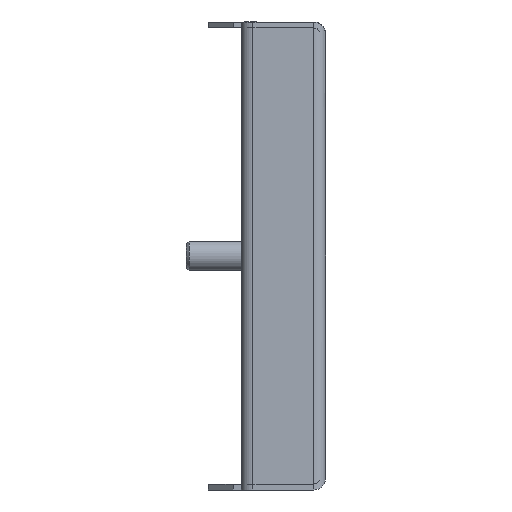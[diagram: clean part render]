
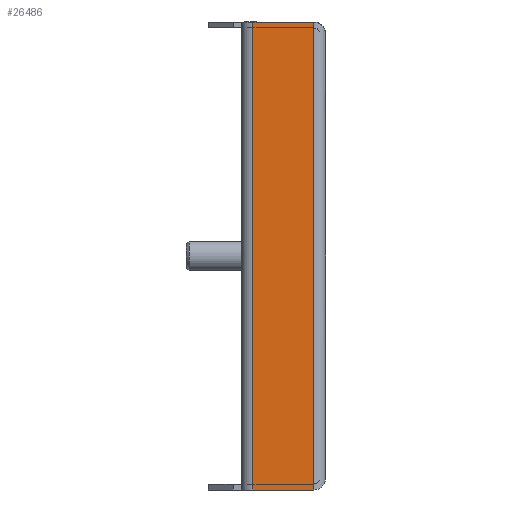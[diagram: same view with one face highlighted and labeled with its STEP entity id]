
A CAD part, left-side view. The second image highlights one B-rep face of the part: STEP entity #26486.
In plain terms, the highlighted planar face has unit normal (-1, 0, 0).
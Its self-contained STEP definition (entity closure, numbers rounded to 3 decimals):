
#1991 = EDGE_CURVE ( 'NONE', #30424, #30423, #23474, .T. ) ;
#2004 = EDGE_CURVE ( 'NONE', #30434, #30433, #23516, .T. ) ;
#2007 = EDGE_CURVE ( 'NONE', #30423, #30433, #23525, .T. ) ;
#2008 = EDGE_CURVE ( 'NONE', #30424, #30434, #23528, .T. ) ;
#2801 = VECTOR ( 'NONE', #23530, 1000. ) ;
#3167 = VECTOR ( 'NONE', #23518, 1000. ) ;
#3199 = VECTOR ( 'NONE', #23476, 1000. ) ;
#3204 = VECTOR ( 'NONE', #23527, 1000. ) ;
#3325 = ORIENTED_EDGE ( 'NONE', *, *, #2004, .T. ) ;
#3326 = ORIENTED_EDGE ( 'NONE', *, *, #1991, .F. ) ;
#3328 = ORIENTED_EDGE ( 'NONE', *, *, #2007, .F. ) ;
#3329 = ORIENTED_EDGE ( 'NONE', *, *, #2008, .T. ) ;
#8989 = CARTESIAN_POINT ( 'NONE',  ( -229., 2.4, -47. ) ) ;
#8990 = CARTESIAN_POINT ( 'NONE',  ( -229., 2.4, 47. ) ) ;
#8999 = CARTESIAN_POINT ( 'NONE',  ( -229., 14.6, -47. ) ) ;
#9000 = CARTESIAN_POINT ( 'NONE',  ( -229., 14.6, 47. ) ) ;
#14158 = FACE_OUTER_BOUND ( 'NONE', #28872, .T. ) ;
#14161 = AXIS2_PLACEMENT_3D ( 'NONE', #15057, #15058, #15059 ) ;
#15056 = PLANE ( 'NONE',  #14161 ) ;
#15057 = CARTESIAN_POINT ( 'NONE',  ( -229., 0., 47. ) ) ;
#15058 = DIRECTION ( 'NONE',  ( -1., 0., 0. ) ) ;
#15059 = DIRECTION ( 'NONE',  ( 0., 0., 1. ) ) ;
#23474 = LINE ( 'NONE', #23475, #3199 ) ;
#23475 = CARTESIAN_POINT ( 'NONE',  ( -229., 2.4, 47. ) ) ;
#23476 = DIRECTION ( 'NONE',  ( 0., 0., -1. ) ) ;
#23516 = LINE ( 'NONE', #23517, #3167 ) ;
#23517 = CARTESIAN_POINT ( 'NONE',  ( -229., 14.6, 47. ) ) ;
#23518 = DIRECTION ( 'NONE',  ( 0., 0., -1. ) ) ;
#23525 = LINE ( 'NONE', #23526, #3204 ) ;
#23526 = CARTESIAN_POINT ( 'NONE',  ( -229., 0., -47. ) ) ;
#23527 = DIRECTION ( 'NONE',  ( 0., 1., 0. ) ) ;
#23528 = LINE ( 'NONE', #23529, #2801 ) ;
#23529 = CARTESIAN_POINT ( 'NONE',  ( -229., 0., 47. ) ) ;
#23530 = DIRECTION ( 'NONE',  ( 0., 1., 0. ) ) ;
#26486 = ADVANCED_FACE ( 'NONE', ( #14158 ), #15056, .T. ) ;
#28872 = EDGE_LOOP ( 'NONE', ( #3328, #3326, #3329, #3325 ) ) ;
#30423 = VERTEX_POINT ( 'NONE', #8989 ) ;
#30424 = VERTEX_POINT ( 'NONE', #8990 ) ;
#30433 = VERTEX_POINT ( 'NONE', #8999 ) ;
#30434 = VERTEX_POINT ( 'NONE', #9000 ) ;
